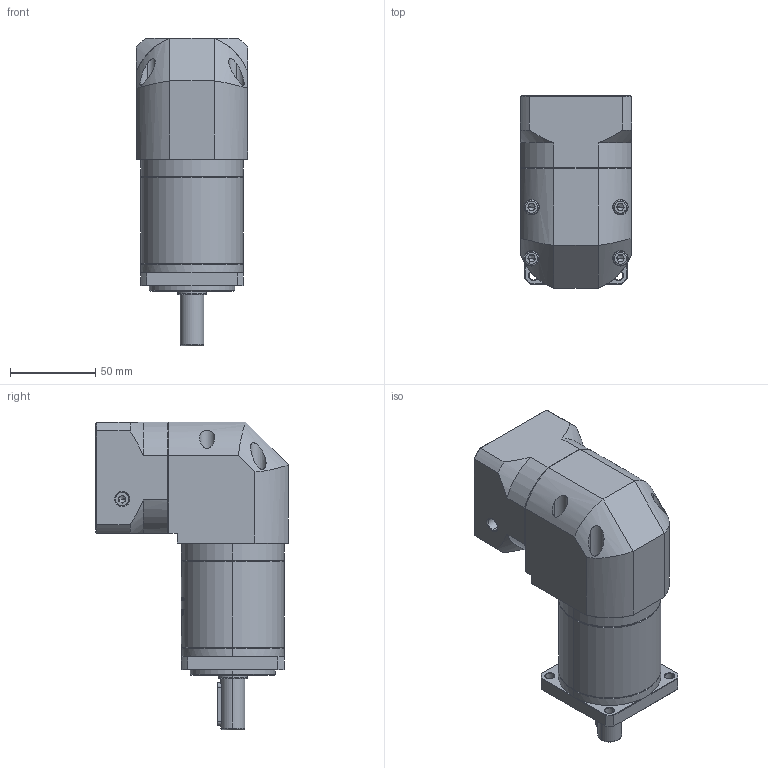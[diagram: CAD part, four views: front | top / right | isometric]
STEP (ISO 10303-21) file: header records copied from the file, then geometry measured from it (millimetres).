
FILE_DESCRIPTION (( 'STEP AP214' ), '1' );
FILE_NAME ('ZFR060-D14-L2-P2-11-60-75-M5.step', '2023-08-17T03:31:06', ( '' ), ( '' ), 'SwSTEP 2.0', 'SolidWorks 2016', '' );
FILE_SCHEMA (( 'AUTOMOTIVE_DESIGN' ));
Length unit declared in the file: millimetre
Products named in the file (1): ZFR060-D14-L2-P2-11-60-75-M5
Bounding box: 65 x 112.7 x 180 mm (x, y, z)
Volume: 601611.7 mm3; surface area: 83158.3 mm2
Topology: 5 solids, 6 shells, 1922 faces, 5126 edges, 3301 vertices
Faces by surface type: plane 847, cylinder 407, bspline 366, cone 288, torus 14
Entity records: 106753 total; most frequent: CARTESIAN_POINT 41992, ORIENTED_EDGE 10208, DIRECTION 7582, EDGE_CURVE 5104, VERTEX_POINT 3301, LINE 2612, VECTOR 2612, AXIS2_PLACEMENT_3D 2485
